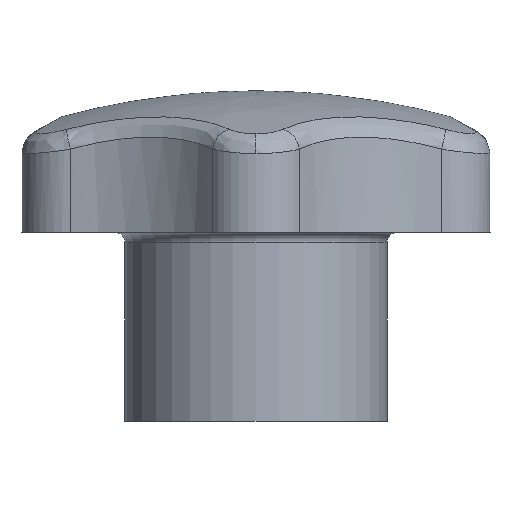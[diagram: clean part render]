
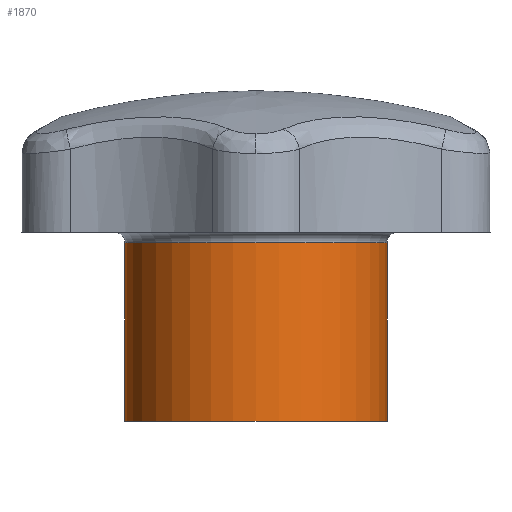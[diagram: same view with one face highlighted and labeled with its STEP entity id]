
A CAD part, left-side view. The second image highlights one B-rep face of the part: STEP entity #1870.
In plain terms, the highlighted cylindrical face has radius 12.5 mm (diameter 25 mm), a full revolution.
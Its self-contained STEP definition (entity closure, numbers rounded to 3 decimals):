
#1838=CARTESIAN_POINT('',(0.,0.,18.));
#1839=DIRECTION('',(-1.,0.,0.));
#1840=DIRECTION('',(0.,0.,-1.));
#1841=AXIS2_PLACEMENT_3D('',#1838,#1840,#1839);
#1842=CYLINDRICAL_SURFACE('',#1841,12.5);
#1843=CARTESIAN_POINT('',(-12.5,0.,17.));
#1844=VERTEX_POINT('',#1843);
#1845=CARTESIAN_POINT('',(-12.5,0.,0.));
#1846=VERTEX_POINT('',#1845);
#1847=CARTESIAN_POINT('',(-12.5,0.,17.));
#1848=DIRECTION('',(0.,0.,-1.));
#1849=VECTOR('',#1848,17.);
#1850=LINE('',#1847,#1849);
#1851=EDGE_CURVE('',#1844,#1846,#1850,.T.);
#1852=ORIENTED_EDGE('E55',*,*,#1851,.F.);
#1853=CARTESIAN_POINT('',(0.,0.,17.));
#1854=DIRECTION('',(-1.,0.,0.));
#1855=DIRECTION('',(0.,0.,1.));
#1856=AXIS2_PLACEMENT_3D('',#1853,#1855,#1854);
#1857=CIRCLE('',#1856,12.5);
#1858=EDGE_CURVE('',#1844,#1844,#1857,.T.);
#1859=ORIENTED_EDGE('E123',*,*,#1858,.F.);
#1860=ORIENTED_EDGE('E123',*,*,#1851,.T.);
#1861=CARTESIAN_POINT('',(0.,0.,0.));
#1862=DIRECTION('',(-1.,0.,0.));
#1863=DIRECTION('',(0.,0.,1.));
#1864=AXIS2_PLACEMENT_3D('',#1861,#1863,#1862);
#1865=CIRCLE('',#1864,12.5);
#1866=EDGE_CURVE('',#1846,#1846,#1865,.T.);
#1867=ORIENTED_EDGE('E57',*,*,#1866,.T.);
#1868=EDGE_LOOP('',(#1852,#1859,#1860,#1867));
#1869=FACE_OUTER_BOUND('',#1868,.T.);
#1870=ADVANCED_FACE('F50',(#1869),#1842,.T.);
